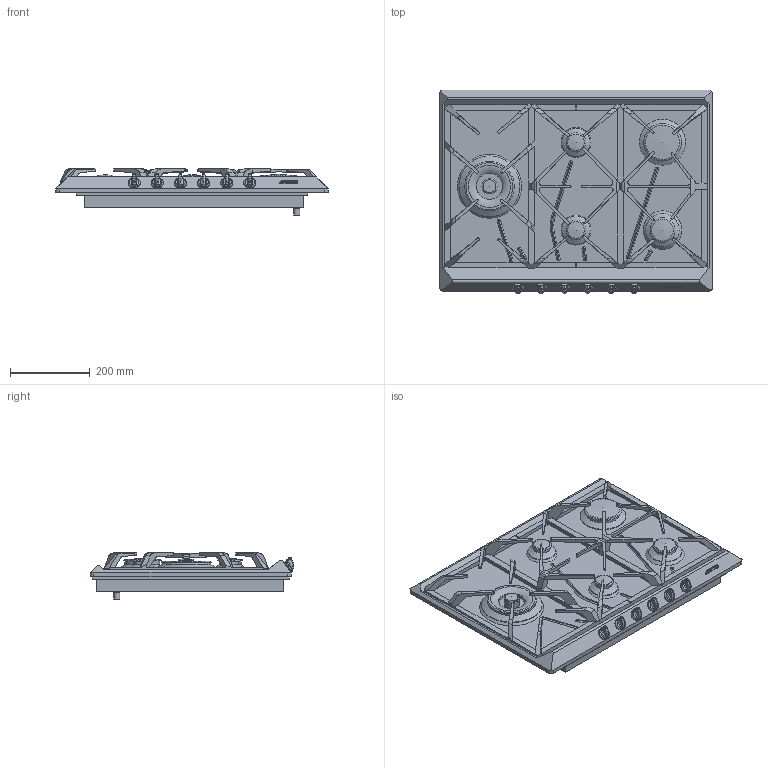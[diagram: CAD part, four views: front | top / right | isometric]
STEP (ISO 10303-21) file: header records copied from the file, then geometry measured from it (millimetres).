
FILE_DESCRIPTION(/* description */ (''),/* implementation_level */ '2;1');
FILE_NAME(/* name */ 'piano srv575gh5.stp',/* time_stamp */ '2018-03-26T13:51:38+02:00',/* author */ (''),/* organization */ (''),/* preprocessor_version */ 'ST-DEVELOPER v16',/* originating_system */ 'SIEMENS PLM Software NX 11.0',/* authorisation */ '');
FILE_SCHEMA (('AUTOMOTIVE_DESIGN { 1 0 10303 214 3 1 1 1 }'));
Length unit declared in the file: millimetre
Products named in the file (1): gobb1F0C41ED6qxd
Bounding box: 683 x 510.13 x 115.23 mm (x, y, z)
Volume: 16562556.3 mm3; surface area: 1838759.7 mm2
Topology: 31 solids, 31 shells, 847 faces, 2143 edges, 1400 vertices
Faces by surface type: plane 458, cylinder 213, bspline 96, cone 29, torus 28, sphere 12, extrusion 11
Full cylindrical faces by diameter (mm): 3.988 x6, 10 x6, 15 x2, 20 x6, 22.3 x1, 30 x6, 38 x1, 42 x2, 43 x2, 55 x1, 56 x1, 65.6 x1, 70.5 x2, 83 x1, 87 x1, 88 x1, 111 x1, 113.5 x1, 115 x1, 122.009 x1, 152 x1
Entity records: 27654 total; most frequent: CARTESIAN_POINT 7596, DIRECTION 4047, ORIENTED_EDGE 4028, EDGE_CURVE 2014, AXIS2_PLACEMENT_3D 1432, VERTEX_POINT 1335, VECTOR 1183, LINE 1172
